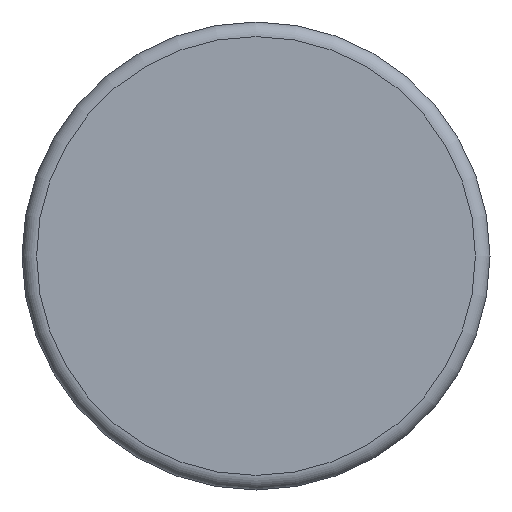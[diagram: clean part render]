
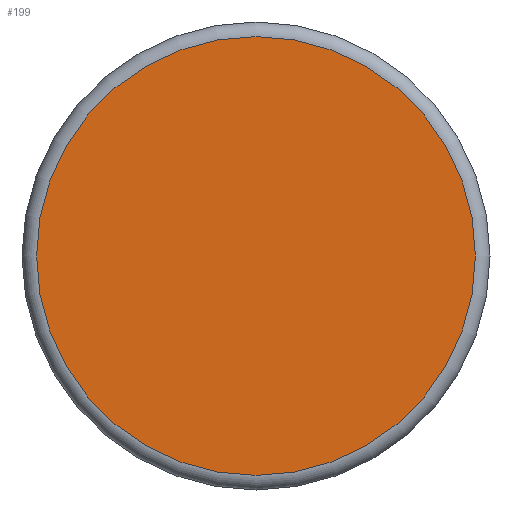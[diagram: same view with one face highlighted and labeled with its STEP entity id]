
A CAD part, front view. The second image highlights one B-rep face of the part: STEP entity #199.
In plain terms, the highlighted planar face has unit normal (0, -1, 0).
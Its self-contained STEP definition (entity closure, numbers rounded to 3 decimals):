
#199 = ADVANCED_FACE( '', ( #382 ), #383, .F. );
#382 = FACE_OUTER_BOUND( '', #564, .T. );
#383 = PLANE( '', #565 );
#564 = EDGE_LOOP( '', ( #879 ) );
#565 = AXIS2_PLACEMENT_3D( '', #880, #881, #882 );
#879 = ORIENTED_EDGE( '', *, *, #1052, .T. );
#880 = CARTESIAN_POINT( '', ( 15., 0., 0. ) );
#881 = DIRECTION( '', ( 0., 1., 0. ) );
#882 = DIRECTION( '', ( 0., 0., 1. ) );
#1052 = EDGE_CURVE( '', #1224, #1224, #1225, .T. );
#1224 = VERTEX_POINT( '', #1504 );
#1225 = CIRCLE( '', #1505, 15. );
#1504 = CARTESIAN_POINT( '', ( 0., 0., -15. ) );
#1505 = AXIS2_PLACEMENT_3D( '', #1876, #1877, #1878 );
#1876 = CARTESIAN_POINT( '', ( 0., 0., 0. ) );
#1877 = DIRECTION( '', ( 0., -1., 0. ) );
#1878 = DIRECTION( '', ( 0., 0., -1. ) );
